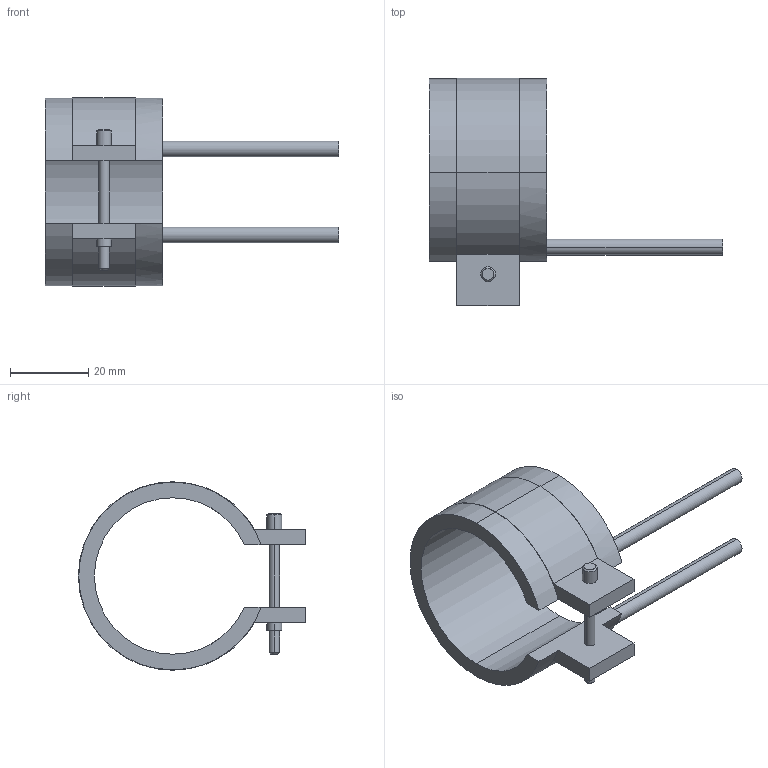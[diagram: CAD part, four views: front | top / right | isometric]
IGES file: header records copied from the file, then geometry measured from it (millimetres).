
Start section: START RECORD GO HERE.
Global section: file name: 14040030.igs; native system: DASSAULT SYSTEMES CATIA V5 R20 - www.3ds.com; preprocessor: CATIA Version 5 Release 20 ; author: Utente; organization: NB04-ASUS; date: 20210331.133132; units: millimetre
Bounding box: 75 x 58.1 x 48.2 mm (x, y, z)
Surface area: 10914.9 mm2 (no closed solid volume)
Topology: 0 solids, 0 shells, 45 faces, 232 edges, 232 vertices
Faces by surface type: revolution 28, plane 17
